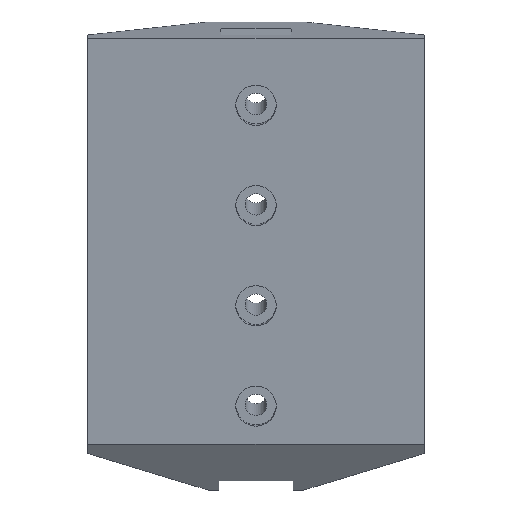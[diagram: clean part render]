
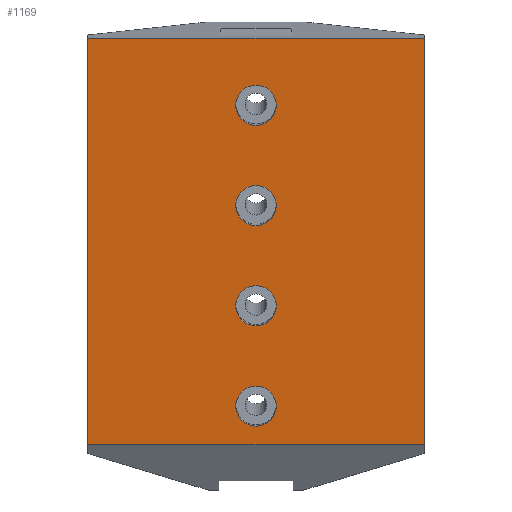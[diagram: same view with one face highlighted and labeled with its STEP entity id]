
A CAD part, front view. The second image highlights one B-rep face of the part: STEP entity #1169.
In plain terms, the highlighted planar face has unit normal (0, -0.993, -0.122).
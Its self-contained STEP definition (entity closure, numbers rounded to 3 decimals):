
#44 = PLANE('',#45);
#45 = AXIS2_PLACEMENT_3D('',#46,#47,#48);
#46 = CARTESIAN_POINT('',(-26.,-8.531,-85.522));
#47 = DIRECTION('',(0.,0.122,-0.993));
#48 = DIRECTION('',(0.,-0.993,-0.122));
#100 = PLANE('',#101);
#101 = AXIS2_PLACEMENT_3D('',#102,#103,#104);
#102 = CARTESIAN_POINT('',(-26.,-20.987,-148.181));
#103 = DIRECTION('',(0.,0.309,0.951));
#104 = DIRECTION('',(0.,0.951,-0.309));
#287 = PLANE('',#288);
#288 = AXIS2_PLACEMENT_3D('',#289,#290,#291);
#289 = CARTESIAN_POINT('',(-25.,-21.592,-159.666));
#290 = DIRECTION('',(-1.,0.,0.));
#291 = DIRECTION('',(0.,0.993,0.122));
#1099 = VERTEX_POINT('',#1100);
#1100 = CARTESIAN_POINT('',(-25.,-20.987,-148.181));
#1121 = EDGE_CURVE('',#1099,#1122,#1124,.T.);
#1122 = VERTEX_POINT('',#1123);
#1123 = CARTESIAN_POINT('',(-25.,-28.382,-87.959));
#1124 = SURFACE_CURVE('',#1125,(#1129,#1136),.PCURVE_S1.);
#1125 = LINE('',#1126,#1127);
#1126 = CARTESIAN_POINT('',(-25.,-23.994,-123.691));
#1127 = VECTOR('',#1128,1.);
#1128 = DIRECTION('',(0.,-0.122,0.993));
#1129 = PCURVE('',#287,#1130);
#1130 = DEFINITIONAL_REPRESENTATION('',(#1131),#1135);
#1131 = LINE('',#1132,#1133);
#1132 = CARTESIAN_POINT('',(2.,-36.));
#1133 = VECTOR('',#1134,1.);
#1134 = DIRECTION('',(0.,-1.));
#1135 = ( GEOMETRIC_REPRESENTATION_CONTEXT(2) 
PARAMETRIC_REPRESENTATION_CONTEXT() REPRESENTATION_CONTEXT('2D SPACE',''
  ) );
#1136 = PCURVE('',#1137,#1142);
#1137 = PLANE('',#1138);
#1138 = AXIS2_PLACEMENT_3D('',#1139,#1140,#1141);
#1139 = CARTESIAN_POINT('',(-26.,-28.382,-87.959));
#1140 = DIRECTION('',(0.,0.993,0.122));
#1141 = DIRECTION('',(0.,0.122,-0.993));
#1142 = DEFINITIONAL_REPRESENTATION('',(#1143),#1147);
#1143 = LINE('',#1144,#1145);
#1144 = CARTESIAN_POINT('',(36.,-1.));
#1145 = VECTOR('',#1146,1.);
#1146 = DIRECTION('',(-1.,0.));
#1147 = ( GEOMETRIC_REPRESENTATION_CONTEXT(2) 
PARAMETRIC_REPRESENTATION_CONTEXT() REPRESENTATION_CONTEXT('2D SPACE',''
  ) );
#1169 = ADVANCED_FACE('',(#1170,#1245,#1276,#1307,#1338),#1137,.F.);
#1170 = FACE_BOUND('',#1171,.F.);
#1171 = EDGE_LOOP('',(#1172,#1173,#1196,#1224));
#1172 = ORIENTED_EDGE('',*,*,#1121,.T.);
#1173 = ORIENTED_EDGE('',*,*,#1174,.T.);
#1174 = EDGE_CURVE('',#1122,#1175,#1177,.T.);
#1175 = VERTEX_POINT('',#1176);
#1176 = CARTESIAN_POINT('',(25.,-28.382,-87.959));
#1177 = SURFACE_CURVE('',#1178,(#1182,#1189),.PCURVE_S1.);
#1178 = LINE('',#1179,#1180);
#1179 = CARTESIAN_POINT('',(-26.,-28.382,-87.959));
#1180 = VECTOR('',#1181,1.);
#1181 = DIRECTION('',(1.,0.,0.));
#1182 = PCURVE('',#1137,#1183);
#1183 = DEFINITIONAL_REPRESENTATION('',(#1184),#1188);
#1184 = LINE('',#1185,#1186);
#1185 = CARTESIAN_POINT('',(0.,0.));
#1186 = VECTOR('',#1187,1.);
#1187 = DIRECTION('',(0.,-1.));
#1188 = ( GEOMETRIC_REPRESENTATION_CONTEXT(2) 
PARAMETRIC_REPRESENTATION_CONTEXT() REPRESENTATION_CONTEXT('2D SPACE',''
  ) );
#1189 = PCURVE('',#44,#1190);
#1190 = DEFINITIONAL_REPRESENTATION('',(#1191),#1195);
#1191 = LINE('',#1192,#1193);
#1192 = CARTESIAN_POINT('',(20.,0.));
#1193 = VECTOR('',#1194,1.);
#1194 = DIRECTION('',(0.,-1.));
#1195 = ( GEOMETRIC_REPRESENTATION_CONTEXT(2) 
PARAMETRIC_REPRESENTATION_CONTEXT() REPRESENTATION_CONTEXT('2D SPACE',''
  ) );
#1196 = ORIENTED_EDGE('',*,*,#1197,.T.);
#1197 = EDGE_CURVE('',#1175,#1198,#1200,.T.);
#1198 = VERTEX_POINT('',#1199);
#1199 = CARTESIAN_POINT('',(25.,-20.987,-148.181));
#1200 = SURFACE_CURVE('',#1201,(#1205,#1212),.PCURVE_S1.);
#1201 = LINE('',#1202,#1203);
#1202 = CARTESIAN_POINT('',(25.,-23.994,-123.691));
#1203 = VECTOR('',#1204,1.);
#1204 = DIRECTION('',(0.,0.122,-0.993));
#1205 = PCURVE('',#1137,#1206);
#1206 = DEFINITIONAL_REPRESENTATION('',(#1207),#1211);
#1207 = LINE('',#1208,#1209);
#1208 = CARTESIAN_POINT('',(36.,-51.));
#1209 = VECTOR('',#1210,1.);
#1210 = DIRECTION('',(1.,0.));
#1211 = ( GEOMETRIC_REPRESENTATION_CONTEXT(2) 
PARAMETRIC_REPRESENTATION_CONTEXT() REPRESENTATION_CONTEXT('2D SPACE',''
  ) );
#1212 = PCURVE('',#1213,#1218);
#1213 = PLANE('',#1214);
#1214 = AXIS2_PLACEMENT_3D('',#1215,#1216,#1217);
#1215 = CARTESIAN_POINT('',(25.,-15.58,-158.928));
#1216 = DIRECTION('',(1.,0.,0.));
#1217 = DIRECTION('',(0.,-0.993,-0.122));
#1218 = DEFINITIONAL_REPRESENTATION('',(#1219),#1223);
#1219 = LINE('',#1220,#1221);
#1220 = CARTESIAN_POINT('',(4.057,-36.));
#1221 = VECTOR('',#1222,1.);
#1222 = DIRECTION('',(0.,1.));
#1223 = ( GEOMETRIC_REPRESENTATION_CONTEXT(2) 
PARAMETRIC_REPRESENTATION_CONTEXT() REPRESENTATION_CONTEXT('2D SPACE',''
  ) );
#1224 = ORIENTED_EDGE('',*,*,#1225,.F.);
#1225 = EDGE_CURVE('',#1099,#1198,#1226,.T.);
#1226 = SURFACE_CURVE('',#1227,(#1231,#1238),.PCURVE_S1.);
#1227 = LINE('',#1228,#1229);
#1228 = CARTESIAN_POINT('',(-26.,-20.987,-148.181));
#1229 = VECTOR('',#1230,1.);
#1230 = DIRECTION('',(1.,0.,0.));
#1231 = PCURVE('',#1137,#1232);
#1232 = DEFINITIONAL_REPRESENTATION('',(#1233),#1237);
#1233 = LINE('',#1234,#1235);
#1234 = CARTESIAN_POINT('',(60.674,0.));
#1235 = VECTOR('',#1236,1.);
#1236 = DIRECTION('',(0.,-1.));
#1237 = ( GEOMETRIC_REPRESENTATION_CONTEXT(2) 
PARAMETRIC_REPRESENTATION_CONTEXT() REPRESENTATION_CONTEXT('2D SPACE',''
  ) );
#1238 = PCURVE('',#100,#1239);
#1239 = DEFINITIONAL_REPRESENTATION('',(#1240),#1244);
#1240 = LINE('',#1241,#1242);
#1241 = CARTESIAN_POINT('',(0.,0.));
#1242 = VECTOR('',#1243,1.);
#1243 = DIRECTION('',(0.,-1.));
#1244 = ( GEOMETRIC_REPRESENTATION_CONTEXT(2) 
PARAMETRIC_REPRESENTATION_CONTEXT() REPRESENTATION_CONTEXT('2D SPACE',''
  ) );
#1245 = FACE_BOUND('',#1246,.F.);
#1246 = EDGE_LOOP('',(#1247));
#1247 = ORIENTED_EDGE('',*,*,#1248,.F.);
#1248 = EDGE_CURVE('',#1249,#1249,#1251,.T.);
#1249 = VERTEX_POINT('',#1250);
#1250 = CARTESIAN_POINT('',(-3.,-27.163,-97.885));
#1251 = SURFACE_CURVE('',#1252,(#1257,#1264),.PCURVE_S1.);
#1252 = CIRCLE('',#1253,3.);
#1253 = AXIS2_PLACEMENT_3D('',#1254,#1255,#1256);
#1254 = CARTESIAN_POINT('',(0.,-27.163,-97.885));
#1255 = DIRECTION('',(0.,0.993,0.122));
#1256 = DIRECTION('',(-1.,0.,0.));
#1257 = PCURVE('',#1137,#1258);
#1258 = DEFINITIONAL_REPRESENTATION('',(#1259),#1263);
#1259 = CIRCLE('',#1260,3.);
#1260 = AXIS2_PLACEMENT_2D('',#1261,#1262);
#1261 = CARTESIAN_POINT('',(10.,-26.));
#1262 = DIRECTION('',(0.,1.));
#1263 = ( GEOMETRIC_REPRESENTATION_CONTEXT(2) 
PARAMETRIC_REPRESENTATION_CONTEXT() REPRESENTATION_CONTEXT('2D SPACE',''
  ) );
#1264 = PCURVE('',#1265,#1270);
#1265 = CYLINDRICAL_SURFACE('',#1266,3.);
#1266 = AXIS2_PLACEMENT_3D('',#1267,#1268,#1269);
#1267 = CARTESIAN_POINT('',(0.,-25.674,-97.702));
#1268 = DIRECTION('',(0.,0.993,0.122));
#1269 = DIRECTION('',(-1.,0.,0.));
#1270 = DEFINITIONAL_REPRESENTATION('',(#1271),#1275);
#1271 = LINE('',#1272,#1273);
#1272 = CARTESIAN_POINT('',(-6.283,-1.5));
#1273 = VECTOR('',#1274,1.);
#1274 = DIRECTION('',(1.,-0.));
#1275 = ( GEOMETRIC_REPRESENTATION_CONTEXT(2) 
PARAMETRIC_REPRESENTATION_CONTEXT() REPRESENTATION_CONTEXT('2D SPACE',''
  ) );
#1276 = FACE_BOUND('',#1277,.F.);
#1277 = EDGE_LOOP('',(#1278));
#1278 = ORIENTED_EDGE('',*,*,#1279,.F.);
#1279 = EDGE_CURVE('',#1280,#1280,#1282,.T.);
#1280 = VERTEX_POINT('',#1281);
#1281 = CARTESIAN_POINT('',(-3.,-25.335,-112.773));
#1282 = SURFACE_CURVE('',#1283,(#1288,#1295),.PCURVE_S1.);
#1283 = CIRCLE('',#1284,3.);
#1284 = AXIS2_PLACEMENT_3D('',#1285,#1286,#1287);
#1285 = CARTESIAN_POINT('',(0.,-25.335,-112.773));
#1286 = DIRECTION('',(0.,0.993,0.122));
#1287 = DIRECTION('',(-1.,0.,0.));
#1288 = PCURVE('',#1137,#1289);
#1289 = DEFINITIONAL_REPRESENTATION('',(#1290),#1294);
#1290 = CIRCLE('',#1291,3.);
#1291 = AXIS2_PLACEMENT_2D('',#1292,#1293);
#1292 = CARTESIAN_POINT('',(25.,-26.));
#1293 = DIRECTION('',(0.,1.));
#1294 = ( GEOMETRIC_REPRESENTATION_CONTEXT(2) 
PARAMETRIC_REPRESENTATION_CONTEXT() REPRESENTATION_CONTEXT('2D SPACE',''
  ) );
#1295 = PCURVE('',#1296,#1301);
#1296 = CYLINDRICAL_SURFACE('',#1297,3.);
#1297 = AXIS2_PLACEMENT_3D('',#1298,#1299,#1300);
#1298 = CARTESIAN_POINT('',(0.,-23.846,-112.59));
#1299 = DIRECTION('',(0.,0.993,0.122));
#1300 = DIRECTION('',(-1.,0.,0.));
#1301 = DEFINITIONAL_REPRESENTATION('',(#1302),#1306);
#1302 = LINE('',#1303,#1304);
#1303 = CARTESIAN_POINT('',(-6.283,-1.5));
#1304 = VECTOR('',#1305,1.);
#1305 = DIRECTION('',(1.,-0.));
#1306 = ( GEOMETRIC_REPRESENTATION_CONTEXT(2) 
PARAMETRIC_REPRESENTATION_CONTEXT() REPRESENTATION_CONTEXT('2D SPACE',''
  ) );
#1307 = FACE_BOUND('',#1308,.F.);
#1308 = EDGE_LOOP('',(#1309));
#1309 = ORIENTED_EDGE('',*,*,#1310,.F.);
#1310 = EDGE_CURVE('',#1311,#1311,#1313,.T.);
#1311 = VERTEX_POINT('',#1312);
#1312 = CARTESIAN_POINT('',(-3.,-23.507,-127.661));
#1313 = SURFACE_CURVE('',#1314,(#1319,#1326),.PCURVE_S1.);
#1314 = CIRCLE('',#1315,3.);
#1315 = AXIS2_PLACEMENT_3D('',#1316,#1317,#1318);
#1316 = CARTESIAN_POINT('',(0.,-23.507,-127.661));
#1317 = DIRECTION('',(0.,0.993,0.122));
#1318 = DIRECTION('',(-1.,0.,0.));
#1319 = PCURVE('',#1137,#1320);
#1320 = DEFINITIONAL_REPRESENTATION('',(#1321),#1325);
#1321 = CIRCLE('',#1322,3.);
#1322 = AXIS2_PLACEMENT_2D('',#1323,#1324);
#1323 = CARTESIAN_POINT('',(40.,-26.));
#1324 = DIRECTION('',(0.,1.));
#1325 = ( GEOMETRIC_REPRESENTATION_CONTEXT(2) 
PARAMETRIC_REPRESENTATION_CONTEXT() REPRESENTATION_CONTEXT('2D SPACE',''
  ) );
#1326 = PCURVE('',#1327,#1332);
#1327 = CYLINDRICAL_SURFACE('',#1328,3.);
#1328 = AXIS2_PLACEMENT_3D('',#1329,#1330,#1331);
#1329 = CARTESIAN_POINT('',(0.,-22.018,-127.478));
#1330 = DIRECTION('',(0.,0.993,0.122));
#1331 = DIRECTION('',(-1.,0.,0.));
#1332 = DEFINITIONAL_REPRESENTATION('',(#1333),#1337);
#1333 = LINE('',#1334,#1335);
#1334 = CARTESIAN_POINT('',(-6.283,-1.5));
#1335 = VECTOR('',#1336,1.);
#1336 = DIRECTION('',(1.,-0.));
#1337 = ( GEOMETRIC_REPRESENTATION_CONTEXT(2) 
PARAMETRIC_REPRESENTATION_CONTEXT() REPRESENTATION_CONTEXT('2D SPACE',''
  ) );
#1338 = FACE_BOUND('',#1339,.F.);
#1339 = EDGE_LOOP('',(#1340));
#1340 = ORIENTED_EDGE('',*,*,#1341,.F.);
#1341 = EDGE_CURVE('',#1342,#1342,#1344,.T.);
#1342 = VERTEX_POINT('',#1343);
#1343 = CARTESIAN_POINT('',(-3.,-21.679,-142.549));
#1344 = SURFACE_CURVE('',#1345,(#1350,#1357),.PCURVE_S1.);
#1345 = CIRCLE('',#1346,3.);
#1346 = AXIS2_PLACEMENT_3D('',#1347,#1348,#1349);
#1347 = CARTESIAN_POINT('',(0.,-21.679,-142.549));
#1348 = DIRECTION('',(0.,0.993,0.122));
#1349 = DIRECTION('',(-1.,0.,0.));
#1350 = PCURVE('',#1137,#1351);
#1351 = DEFINITIONAL_REPRESENTATION('',(#1352),#1356);
#1352 = CIRCLE('',#1353,3.);
#1353 = AXIS2_PLACEMENT_2D('',#1354,#1355);
#1354 = CARTESIAN_POINT('',(55.,-26.));
#1355 = DIRECTION('',(0.,1.));
#1356 = ( GEOMETRIC_REPRESENTATION_CONTEXT(2) 
PARAMETRIC_REPRESENTATION_CONTEXT() REPRESENTATION_CONTEXT('2D SPACE',''
  ) );
#1357 = PCURVE('',#1358,#1363);
#1358 = CYLINDRICAL_SURFACE('',#1359,3.);
#1359 = AXIS2_PLACEMENT_3D('',#1360,#1361,#1362);
#1360 = CARTESIAN_POINT('',(0.,-20.19,-142.366));
#1361 = DIRECTION('',(0.,0.993,0.122));
#1362 = DIRECTION('',(-1.,0.,0.));
#1363 = DEFINITIONAL_REPRESENTATION('',(#1364),#1368);
#1364 = LINE('',#1365,#1366);
#1365 = CARTESIAN_POINT('',(-6.283,-1.5));
#1366 = VECTOR('',#1367,1.);
#1367 = DIRECTION('',(1.,-0.));
#1368 = ( GEOMETRIC_REPRESENTATION_CONTEXT(2) 
PARAMETRIC_REPRESENTATION_CONTEXT() REPRESENTATION_CONTEXT('2D SPACE',''
  ) );
